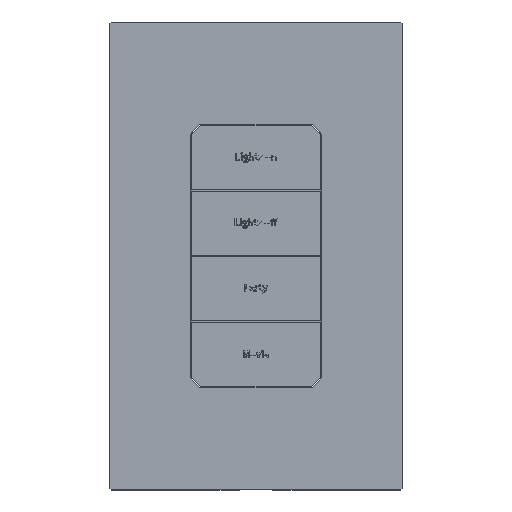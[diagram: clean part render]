
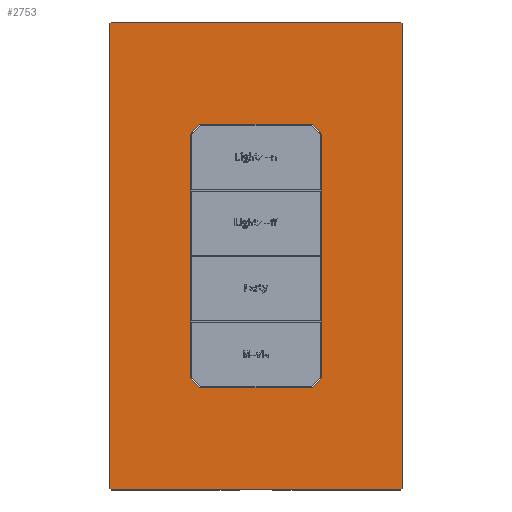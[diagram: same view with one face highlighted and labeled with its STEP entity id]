
A CAD part, top view. The second image highlights one B-rep face of the part: STEP entity #2753.
In plain terms, the highlighted planar face has unit normal (0, 0, 1).
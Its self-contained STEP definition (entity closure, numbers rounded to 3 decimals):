
#173=(
BOUNDED_CURVE()
B_SPLINE_CURVE(2,(#54199,#54200,#54201),.UNSPECIFIED.,.F.,.F.)
B_SPLINE_CURVE_WITH_KNOTS((3,3),(0.,3.75),.UNSPECIFIED.)
CURVE()
GEOMETRIC_REPRESENTATION_ITEM()
RATIONAL_B_SPLINE_CURVE((1.,0.707,1.))
REPRESENTATION_ITEM('')
);
#175=(
BOUNDED_CURVE()
B_SPLINE_CURVE(2,(#54211,#54212,#54213),.UNSPECIFIED.,.F.,.F.)
B_SPLINE_CURVE_WITH_KNOTS((3,3),(0.,3.75),.UNSPECIFIED.)
CURVE()
GEOMETRIC_REPRESENTATION_ITEM()
RATIONAL_B_SPLINE_CURVE((1.,0.707,1.))
REPRESENTATION_ITEM('')
);
#177=(
BOUNDED_CURVE()
B_SPLINE_CURVE(2,(#54223,#54224,#54225),.UNSPECIFIED.,.F.,.F.)
B_SPLINE_CURVE_WITH_KNOTS((3,3),(0.,3.75),.UNSPECIFIED.)
CURVE()
GEOMETRIC_REPRESENTATION_ITEM()
RATIONAL_B_SPLINE_CURVE((1.,0.707,1.))
REPRESENTATION_ITEM('')
);
#179=(
BOUNDED_CURVE()
B_SPLINE_CURVE(2,(#54235,#54236,#54237),.UNSPECIFIED.,.F.,.F.)
B_SPLINE_CURVE_WITH_KNOTS((3,3),(0.,3.75),.UNSPECIFIED.)
CURVE()
GEOMETRIC_REPRESENTATION_ITEM()
RATIONAL_B_SPLINE_CURVE((1.,0.707,1.))
REPRESENTATION_ITEM('')
);
#180=(
BOUNDED_CURVE()
B_SPLINE_CURVE(2,(#54286,#54287,#54288),.UNSPECIFIED.,.F.,.F.)
B_SPLINE_CURVE_WITH_KNOTS((3,3),(-0.628,0.),.UNSPECIFIED.)
CURVE()
GEOMETRIC_REPRESENTATION_ITEM()
RATIONAL_B_SPLINE_CURVE((1.,0.707,1.))
REPRESENTATION_ITEM('')
);
#181=(
BOUNDED_CURVE()
B_SPLINE_CURVE(2,(#54295,#54296,#54297),.UNSPECIFIED.,.F.,.F.)
B_SPLINE_CURVE_WITH_KNOTS((3,3),(-0.628,0.),.UNSPECIFIED.)
CURVE()
GEOMETRIC_REPRESENTATION_ITEM()
RATIONAL_B_SPLINE_CURVE((1.,0.707,1.))
REPRESENTATION_ITEM('')
);
#182=(
BOUNDED_CURVE()
B_SPLINE_CURVE(2,(#54302,#54303,#54304),.UNSPECIFIED.,.F.,.F.)
B_SPLINE_CURVE_WITH_KNOTS((3,3),(-0.628,0.),.UNSPECIFIED.)
CURVE()
GEOMETRIC_REPRESENTATION_ITEM()
RATIONAL_B_SPLINE_CURVE((1.,0.707,1.))
REPRESENTATION_ITEM('')
);
#183=(
BOUNDED_CURVE()
B_SPLINE_CURVE(2,(#54309,#54310,#54311),.UNSPECIFIED.,.F.,.F.)
B_SPLINE_CURVE_WITH_KNOTS((3,3),(-0.628,0.),.UNSPECIFIED.)
CURVE()
GEOMETRIC_REPRESENTATION_ITEM()
RATIONAL_B_SPLINE_CURVE((1.,0.707,1.))
REPRESENTATION_ITEM('')
);
#1581=FACE_BOUND('',#5341,.T.);
#2753=ADVANCED_FACE('',(#4035,#1581),#22559,.T.);
#4035=FACE_OUTER_BOUND('',#5340,.T.);
#5340=EDGE_LOOP('',(#9873,#9874,#9875,#9876,#9877,#9878,#9879,#9880));
#5341=EDGE_LOOP('',(#9881,#9882,#9883,#9884,#9885,#9886,#9887,#9888));
#9873=ORIENTED_EDGE('',*,*,#15179,.F.);
#9874=ORIENTED_EDGE('',*,*,#15119,.F.);
#9875=ORIENTED_EDGE('',*,*,#15173,.F.);
#9876=ORIENTED_EDGE('',*,*,#15120,.F.);
#9877=ORIENTED_EDGE('',*,*,#15169,.F.);
#9878=ORIENTED_EDGE('',*,*,#15121,.F.);
#9879=ORIENTED_EDGE('',*,*,#15176,.F.);
#9880=ORIENTED_EDGE('',*,*,#15118,.F.);
#9881=ORIENTED_EDGE('',*,*,#15122,.F.);
#9882=ORIENTED_EDGE('',*,*,#15129,.F.);
#9883=ORIENTED_EDGE('',*,*,#15123,.F.);
#9884=ORIENTED_EDGE('',*,*,#15134,.F.);
#9885=ORIENTED_EDGE('',*,*,#15124,.F.);
#9886=ORIENTED_EDGE('',*,*,#15139,.F.);
#9887=ORIENTED_EDGE('',*,*,#15125,.F.);
#9888=ORIENTED_EDGE('',*,*,#15144,.F.);
#15118=EDGE_CURVE('',#21113,#21114,#18615,.T.);
#15119=EDGE_CURVE('',#21116,#21115,#18616,.T.);
#15120=EDGE_CURVE('',#21118,#21117,#18617,.T.);
#15121=EDGE_CURVE('',#21120,#21119,#18618,.T.);
#15122=EDGE_CURVE('',#21121,#21122,#18619,.T.);
#15123=EDGE_CURVE('',#21124,#21123,#18620,.T.);
#15124=EDGE_CURVE('',#21126,#21125,#18621,.T.);
#15125=EDGE_CURVE('',#21128,#21127,#18622,.T.);
#15129=EDGE_CURVE('',#21123,#21121,#173,.T.);
#15134=EDGE_CURVE('',#21125,#21124,#175,.T.);
#15139=EDGE_CURVE('',#21127,#21126,#177,.T.);
#15144=EDGE_CURVE('',#21122,#21128,#179,.T.);
#15169=EDGE_CURVE('',#21119,#21118,#180,.T.);
#15173=EDGE_CURVE('',#21117,#21116,#181,.T.);
#15176=EDGE_CURVE('',#21114,#21120,#182,.T.);
#15179=EDGE_CURVE('',#21115,#21113,#183,.T.);
#18615=B_SPLINE_CURVE_WITH_KNOTS('',1,(#54176,#54177),.UNSPECIFIED.,.F.,
 .F.,(2,2),(-118.,0.),.UNSPECIFIED.);
#18616=B_SPLINE_CURVE_WITH_KNOTS('',1,(#54178,#54179),.UNSPECIFIED.,.F.,
 .F.,(2,2),(-73.5,0.),.UNSPECIFIED.);
#18617=B_SPLINE_CURVE_WITH_KNOTS('',1,(#54180,#54181),.UNSPECIFIED.,.F.,
 .F.,(2,2),(-118.,0.),.UNSPECIFIED.);
#18618=B_SPLINE_CURVE_WITH_KNOTS('',1,(#54182,#54183),.UNSPECIFIED.,.F.,
 .F.,(2,2),(-73.5,0.),.UNSPECIFIED.);
#18619=B_SPLINE_CURVE_WITH_KNOTS('',1,(#54184,#54185),.UNSPECIFIED.,.F.,
 .F.,(2,2),(0.,62.027),.UNSPECIFIED.);
#18620=B_SPLINE_CURVE_WITH_KNOTS('',1,(#54186,#54187),.UNSPECIFIED.,.F.,
 .F.,(2,2),(0.,28.499),.UNSPECIFIED.);
#18621=B_SPLINE_CURVE_WITH_KNOTS('',1,(#54188,#54189),.UNSPECIFIED.,.F.,
 .F.,(2,2),(0.,62.027),.UNSPECIFIED.);
#18622=B_SPLINE_CURVE_WITH_KNOTS('',1,(#54190,#54191),.UNSPECIFIED.,.F.,
 .F.,(2,2),(0.,28.499),.UNSPECIFIED.);
#21113=VERTEX_POINT('',#54044);
#21114=VERTEX_POINT('',#54045);
#21115=VERTEX_POINT('',#54046);
#21116=VERTEX_POINT('',#54047);
#21117=VERTEX_POINT('',#54048);
#21118=VERTEX_POINT('',#54049);
#21119=VERTEX_POINT('',#54050);
#21120=VERTEX_POINT('',#54051);
#21121=VERTEX_POINT('',#54052);
#21122=VERTEX_POINT('',#54053);
#21123=VERTEX_POINT('',#54054);
#21124=VERTEX_POINT('',#54055);
#21125=VERTEX_POINT('',#54056);
#21126=VERTEX_POINT('',#54057);
#21127=VERTEX_POINT('',#54058);
#21128=VERTEX_POINT('',#54059);
#22559=PLANE('',#23165);
#23165=AXIS2_PLACEMENT_3D('',#53711,#23906,$);
#23906=DIRECTION('',(0.,0.,1.));
#53711=CARTESIAN_POINT('',(214.292,-71.992,4.964));
#54044=CARTESIAN_POINT('',(131.85,-59.,4.964));
#54045=CARTESIAN_POINT('',(131.85,59.,4.964));
#54046=CARTESIAN_POINT('',(132.25,-59.4,4.964));
#54047=CARTESIAN_POINT('',(205.75,-59.4,4.964));
#54048=CARTESIAN_POINT('',(206.15,-59.,4.964));
#54049=CARTESIAN_POINT('',(206.15,59.,4.964));
#54050=CARTESIAN_POINT('',(205.75,59.4,4.964));
#54051=CARTESIAN_POINT('',(132.25,59.4,4.964));
#54052=CARTESIAN_POINT('',(152.363,31.013,4.964));
#54053=CARTESIAN_POINT('',(152.363,-31.013,4.964));
#54054=CARTESIAN_POINT('',(154.751,33.401,4.964));
#54055=CARTESIAN_POINT('',(183.249,33.401,4.964));
#54056=CARTESIAN_POINT('',(185.637,31.013,4.964));
#54057=CARTESIAN_POINT('',(185.637,-31.013,4.964));
#54058=CARTESIAN_POINT('',(183.249,-33.401,4.964));
#54059=CARTESIAN_POINT('',(154.751,-33.401,4.964));
#54176=CARTESIAN_POINT('',(131.85,-59.,4.964));
#54177=CARTESIAN_POINT('',(131.85,59.,4.964));
#54178=CARTESIAN_POINT('',(205.75,-59.4,4.964));
#54179=CARTESIAN_POINT('',(132.25,-59.4,4.964));
#54180=CARTESIAN_POINT('',(206.15,59.,4.964));
#54181=CARTESIAN_POINT('',(206.15,-59.,4.964));
#54182=CARTESIAN_POINT('',(132.25,59.4,4.964));
#54183=CARTESIAN_POINT('',(205.75,59.4,4.964));
#54184=CARTESIAN_POINT('',(152.363,31.013,4.964));
#54185=CARTESIAN_POINT('',(152.363,-31.013,4.964));
#54186=CARTESIAN_POINT('',(183.249,33.401,4.964));
#54187=CARTESIAN_POINT('',(154.751,33.401,4.964));
#54188=CARTESIAN_POINT('',(185.637,-31.013,4.964));
#54189=CARTESIAN_POINT('',(185.637,31.013,4.964));
#54190=CARTESIAN_POINT('',(154.751,-33.401,4.964));
#54191=CARTESIAN_POINT('',(183.249,-33.401,4.964));
#54199=CARTESIAN_POINT('',(154.751,33.401,4.964));
#54200=CARTESIAN_POINT('',(152.363,33.401,4.964));
#54201=CARTESIAN_POINT('',(152.363,31.013,4.964));
#54211=CARTESIAN_POINT('',(185.637,31.013,4.964));
#54212=CARTESIAN_POINT('',(185.637,33.401,4.964));
#54213=CARTESIAN_POINT('',(183.249,33.401,4.964));
#54223=CARTESIAN_POINT('',(183.249,-33.401,4.964));
#54224=CARTESIAN_POINT('',(185.637,-33.401,4.964));
#54225=CARTESIAN_POINT('',(185.637,-31.013,4.964));
#54235=CARTESIAN_POINT('',(152.363,-31.013,4.964));
#54236=CARTESIAN_POINT('',(152.363,-33.401,4.964));
#54237=CARTESIAN_POINT('',(154.751,-33.401,4.964));
#54286=CARTESIAN_POINT('',(205.75,59.4,4.964));
#54287=CARTESIAN_POINT('',(206.15,59.4,4.964));
#54288=CARTESIAN_POINT('',(206.15,59.,4.964));
#54295=CARTESIAN_POINT('',(206.15,-59.,4.964));
#54296=CARTESIAN_POINT('',(206.15,-59.4,4.964));
#54297=CARTESIAN_POINT('',(205.75,-59.4,4.964));
#54302=CARTESIAN_POINT('',(131.85,59.,4.964));
#54303=CARTESIAN_POINT('',(131.85,59.4,4.964));
#54304=CARTESIAN_POINT('',(132.25,59.4,4.964));
#54309=CARTESIAN_POINT('',(132.25,-59.4,4.964));
#54310=CARTESIAN_POINT('',(131.85,-59.4,4.964));
#54311=CARTESIAN_POINT('',(131.85,-59.,4.964));
